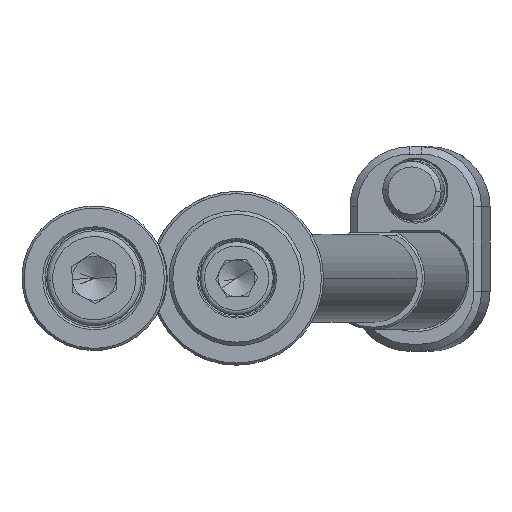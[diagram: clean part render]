
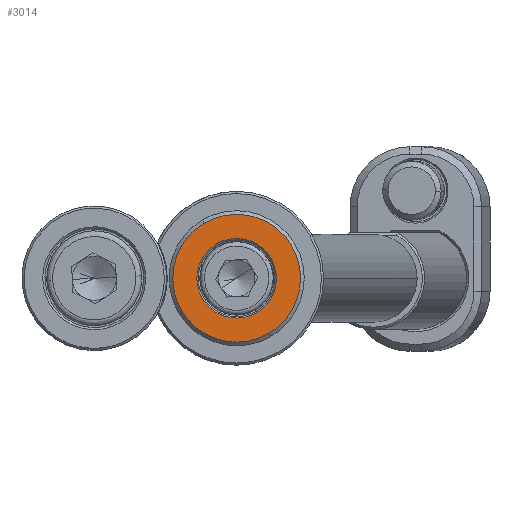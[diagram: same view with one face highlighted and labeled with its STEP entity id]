
A CAD part, front view. The second image highlights one B-rep face of the part: STEP entity #3014.
In plain terms, the highlighted planar face has unit normal (0, -1, 0).
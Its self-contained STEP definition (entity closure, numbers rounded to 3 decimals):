
#320 = DIRECTION ( 'NONE',  ( 0., -1., 0. ) ) ;
#491 = FACE_BOUND ( 'NONE', #9764, .T. ) ;
#986 = CARTESIAN_POINT ( 'NONE',  ( 2.753, -4., -4.704 ) ) ;
#1030 = CIRCLE ( 'NONE', #7736, 8.75 ) ;
#1552 = ORIENTED_EDGE ( 'NONE', *, *, #1574, .T. ) ;
#1574 = EDGE_CURVE ( 'NONE', #11986, #12735, #5241, .T. ) ;
#2754 = FACE_OUTER_BOUND ( 'NONE', #3925, .T. ) ;
#3014 = ADVANCED_FACE ( 'NONE', ( #491, #2754 ), #8254, .F. ) ;
#3286 = DIRECTION ( 'NONE',  ( 0., 1., 0. ) ) ;
#3326 = DIRECTION ( 'NONE',  ( -0.505, 0., 0.863 ) ) ;
#3925 = EDGE_LOOP ( 'NONE', ( #5984, #9311 ) ) ;
#4067 = CARTESIAN_POINT ( 'NONE',  ( -4.531, -4., -2.652 ) ) ;
#4182 = DIRECTION ( 'NONE',  ( -0.505, 0., 0.863 ) ) ;
#4438 = DIRECTION ( 'NONE',  ( 0., -1., 0. ) ) ;
#5125 = EDGE_CURVE ( 'NONE', #12735, #11986, #8859, .T. ) ;
#5241 = CIRCLE ( 'NONE', #13375, 5.45 ) ;
#5288 = CARTESIAN_POINT ( 'NONE',  ( -2.753, -4., 4.704 ) ) ;
#5505 = CARTESIAN_POINT ( 'NONE',  ( 4.42, -4., -7.552 ) ) ;
#5898 = VERTEX_POINT ( 'NONE', #8195 ) ;
#5984 = ORIENTED_EDGE ( 'NONE', *, *, #12507, .T. ) ;
#6357 = DIRECTION ( 'NONE',  ( 0., 1., 0. ) ) ;
#7736 = AXIS2_PLACEMENT_3D ( 'NONE', #8005, #320, #13690 ) ;
#8005 = CARTESIAN_POINT ( 'NONE',  ( 0., -4., 0. ) ) ;
#8195 = CARTESIAN_POINT ( 'NONE',  ( -4.42, -4., 7.552 ) ) ;
#8254 = PLANE ( 'NONE',  #8317 ) ;
#8317 = AXIS2_PLACEMENT_3D ( 'NONE', #4067, #14089, #12997 ) ;
#8859 = CIRCLE ( 'NONE', #12796, 5.45 ) ;
#8891 = AXIS2_PLACEMENT_3D ( 'NONE', #9872, #4438, #3326 ) ;
#9311 = ORIENTED_EDGE ( 'NONE', *, *, #12902, .T. ) ;
#9597 = CIRCLE ( 'NONE', #8891, 8.75 ) ;
#9764 = EDGE_LOOP ( 'NONE', ( #11335, #1552 ) ) ;
#9872 = CARTESIAN_POINT ( 'NONE',  ( 0., -4., 0. ) ) ;
#11335 = ORIENTED_EDGE ( 'NONE', *, *, #5125, .T. ) ;
#11986 = VERTEX_POINT ( 'NONE', #5288 ) ;
#12507 = EDGE_CURVE ( 'NONE', #5898, #13616, #9597, .T. ) ;
#12735 = VERTEX_POINT ( 'NONE', #986 ) ;
#12796 = AXIS2_PLACEMENT_3D ( 'NONE', #13246, #3286, #4182 ) ;
#12902 = EDGE_CURVE ( 'NONE', #13616, #5898, #1030, .T. ) ;
#12997 = DIRECTION ( 'NONE',  ( -0.505, 0., 0.863 ) ) ;
#13048 = DIRECTION ( 'NONE',  ( -0.505, 0., 0.863 ) ) ;
#13121 = CARTESIAN_POINT ( 'NONE',  ( 0., -4., 0. ) ) ;
#13246 = CARTESIAN_POINT ( 'NONE',  ( 0., -4., 0. ) ) ;
#13375 = AXIS2_PLACEMENT_3D ( 'NONE', #13121, #6357, #13048 ) ;
#13616 = VERTEX_POINT ( 'NONE', #5505 ) ;
#13690 = DIRECTION ( 'NONE',  ( -0.505, 0., 0.863 ) ) ;
#14089 = DIRECTION ( 'NONE',  ( 0., 1., 0. ) ) ;
